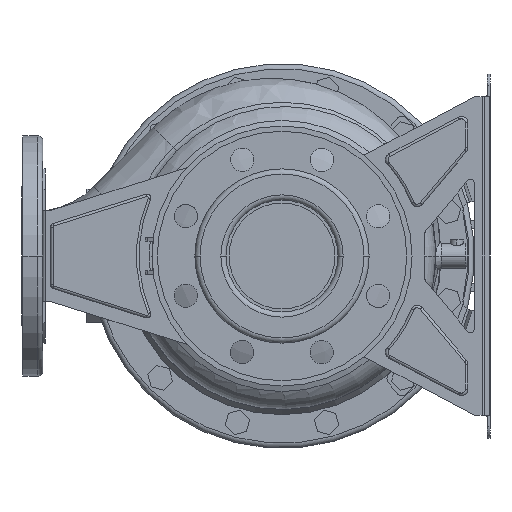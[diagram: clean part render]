
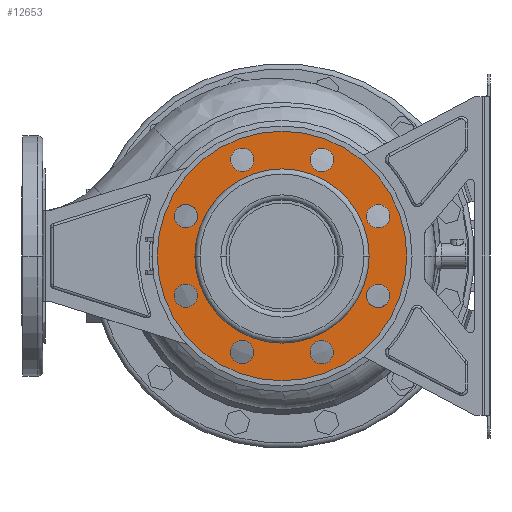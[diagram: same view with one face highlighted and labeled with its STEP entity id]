
A CAD part, left-side view. The second image highlights one B-rep face of the part: STEP entity #12653.
In plain terms, the highlighted planar face has unit normal (-1, 0, 0).
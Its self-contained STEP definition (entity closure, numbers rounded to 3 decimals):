
#11786=CARTESIAN_POINT('',(14.,0.,0.));
#11787=DIRECTION('',(-1.,0.,0.));
#11788=DIRECTION('',(0.,1.,0.));
#11789=AXIS2_PLACEMENT_3D('',#11786,#11787,#11788);
#11794=CARTESIAN_POINT('',(14.,0.,0.));
#11795=DIRECTION('',(1.,0.,0.));
#11796=DIRECTION('',(0.,1.,0.));
#11797=AXIS2_PLACEMENT_3D('',#11794,#11795,#11796);
#11802=CARTESIAN_POINT('',(14.,-73.91,30.615));
#11803=DIRECTION('',(1.,0.,0.));
#11804=DIRECTION('',(0.,1.,0.));
#11805=AXIS2_PLACEMENT_3D('',#11802,#11803,#11804);
#11810=CARTESIAN_POINT('',(14.,-73.91,30.615));
#11811=DIRECTION('',(1.,0.,0.));
#11812=DIRECTION('',(0.,-1.,0.));
#11813=AXIS2_PLACEMENT_3D('',#11810,#11811,#11812);
#11818=CARTESIAN_POINT('',(14.,-73.91,-30.615));
#11819=DIRECTION('',(1.,0.,0.));
#11820=DIRECTION('',(0.,0.707,0.707));
#11821=AXIS2_PLACEMENT_3D('',#11818,#11819,#11820);
#11826=CARTESIAN_POINT('',(14.,-73.91,-30.615));
#11827=DIRECTION('',(1.,0.,0.));
#11828=DIRECTION('',(0.,-0.707,-0.707));
#11829=AXIS2_PLACEMENT_3D('',#11826,#11827,#11828);
#11834=CARTESIAN_POINT('',(14.,-30.615,-73.91));
#11835=DIRECTION('',(1.,0.,0.));
#11836=DIRECTION('',(0.,0.,1.));
#11837=AXIS2_PLACEMENT_3D('',#11834,#11835,#11836);
#11842=CARTESIAN_POINT('',(14.,-30.615,-73.91));
#11843=DIRECTION('',(1.,0.,0.));
#11844=DIRECTION('',(0.,0.,-1.));
#11845=AXIS2_PLACEMENT_3D('',#11842,#11843,#11844);
#11850=CARTESIAN_POINT('',(14.,30.615,-73.91));
#11851=DIRECTION('',(1.,0.,0.));
#11852=DIRECTION('',(0.,-0.707,0.707));
#11853=AXIS2_PLACEMENT_3D('',#11850,#11851,#11852);
#11858=CARTESIAN_POINT('',(14.,30.615,-73.91));
#11859=DIRECTION('',(1.,0.,0.));
#11860=DIRECTION('',(0.,0.707,-0.707));
#11861=AXIS2_PLACEMENT_3D('',#11858,#11859,#11860);
#11866=CARTESIAN_POINT('',(14.,73.91,-30.615));
#11867=DIRECTION('',(1.,0.,0.));
#11868=DIRECTION('',(0.,-1.,0.));
#11869=AXIS2_PLACEMENT_3D('',#11866,#11867,#11868);
#11874=CARTESIAN_POINT('',(14.,73.91,-30.615));
#11875=DIRECTION('',(1.,0.,0.));
#11876=DIRECTION('',(0.,1.,0.));
#11877=AXIS2_PLACEMENT_3D('',#11874,#11875,#11876);
#11882=CARTESIAN_POINT('',(14.,73.91,30.615));
#11883=DIRECTION('',(1.,0.,0.));
#11884=DIRECTION('',(0.,-0.707,-0.707));
#11885=AXIS2_PLACEMENT_3D('',#11882,#11883,#11884);
#11890=CARTESIAN_POINT('',(14.,73.91,30.615));
#11891=DIRECTION('',(1.,0.,0.));
#11892=DIRECTION('',(0.,0.707,0.707));
#11893=AXIS2_PLACEMENT_3D('',#11890,#11891,#11892);
#11898=CARTESIAN_POINT('',(14.,30.615,73.91));
#11899=DIRECTION('',(1.,0.,0.));
#11900=DIRECTION('',(0.,0.,-1.));
#11901=AXIS2_PLACEMENT_3D('',#11898,#11899,#11900);
#11906=CARTESIAN_POINT('',(14.,30.615,73.91));
#11907=DIRECTION('',(1.,0.,0.));
#11908=DIRECTION('',(0.,0.,1.));
#11909=AXIS2_PLACEMENT_3D('',#11906,#11907,#11908);
#11914=CARTESIAN_POINT('',(14.,-30.615,73.91));
#11915=DIRECTION('',(1.,0.,0.));
#11916=DIRECTION('',(0.,0.707,-0.707));
#11917=AXIS2_PLACEMENT_3D('',#11914,#11915,#11916);
#11922=CARTESIAN_POINT('',(14.,-30.615,73.91));
#11923=DIRECTION('',(1.,0.,0.));
#11924=DIRECTION('',(0.,-0.707,0.707));
#11925=AXIS2_PLACEMENT_3D('',#11922,#11923,#11924);
#11930=CARTESIAN_POINT('',(14.,0.,0.));
#11931=DIRECTION('',(1.,0.,0.));
#11932=DIRECTION('',(0.,1.,0.));
#11933=AXIS2_PLACEMENT_3D('',#11930,#11931,#11932);
#11952=CARTESIAN_POINT('',(14.,0.,0.));
#11953=DIRECTION('',(-1.,0.,0.));
#11954=DIRECTION('',(0.,1.,0.));
#11955=AXIS2_PLACEMENT_3D('',#11952,#11953,#11954);
#12173=CARTESIAN_POINT('',(14.,96.,0.));
#12175=VERTEX_POINT('',#12173);
#12176=CARTESIAN_POINT('',(14.,67.,0.));
#12178=VERTEX_POINT('',#12176);
#12205=CARTESIAN_POINT('',(14.,-96.,0.));
#12207=VERTEX_POINT('',#12205);
#12208=CARTESIAN_POINT('',(14.,-67.,0.));
#12210=VERTEX_POINT('',#12208);
#12220=CARTESIAN_POINT('',(14.,-64.91,30.615));
#12221=CARTESIAN_POINT('',(14.,-82.91,30.615));
#12222=VERTEX_POINT('',#12220);
#12223=VERTEX_POINT('',#12221);
#12228=CARTESIAN_POINT('',(14.,-67.546,-24.251));
#12229=CARTESIAN_POINT('',(14.,-80.274,-36.979));
#12230=VERTEX_POINT('',#12228);
#12231=VERTEX_POINT('',#12229);
#12236=CARTESIAN_POINT('',(14.,-30.615,-64.91));
#12237=CARTESIAN_POINT('',(14.,-30.615,-82.91));
#12238=VERTEX_POINT('',#12236);
#12239=VERTEX_POINT('',#12237);
#12244=CARTESIAN_POINT('',(14.,24.251,-67.546));
#12245=CARTESIAN_POINT('',(14.,36.979,-80.274));
#12246=VERTEX_POINT('',#12244);
#12247=VERTEX_POINT('',#12245);
#12252=CARTESIAN_POINT('',(14.,64.91,-30.615));
#12253=CARTESIAN_POINT('',(14.,82.91,-30.615));
#12254=VERTEX_POINT('',#12252);
#12255=VERTEX_POINT('',#12253);
#12260=CARTESIAN_POINT('',(14.,67.546,24.251));
#12261=CARTESIAN_POINT('',(14.,80.274,36.979));
#12262=VERTEX_POINT('',#12260);
#12263=VERTEX_POINT('',#12261);
#12268=CARTESIAN_POINT('',(14.,30.615,64.91));
#12269=CARTESIAN_POINT('',(14.,30.615,82.91));
#12270=VERTEX_POINT('',#12268);
#12271=VERTEX_POINT('',#12269);
#12276=CARTESIAN_POINT('',(14.,-24.251,67.546));
#12277=CARTESIAN_POINT('',(14.,-36.979,80.274));
#12278=VERTEX_POINT('',#12276);
#12279=VERTEX_POINT('',#12277);
#12590=CARTESIAN_POINT('',(14.,0.,0.));
#12591=DIRECTION('',(1.,0.,0.));
#12592=DIRECTION('',(0.,-1.,0.));
#12593=AXIS2_PLACEMENT_3D('',#12590,#12591,#12592);
#12594=PLANE('',#12593);
#12595=ORIENTED_EDGE('',*,*,#12583,.F.);
#12596=ORIENTED_EDGE('',*,*,#12572,.T.);
#12597=EDGE_LOOP('',(#12595,#12596));
#12598=FACE_OUTER_BOUND('',#12597,.F.);
#12600=ORIENTED_EDGE('',*,*,#12599,.F.);
#12602=ORIENTED_EDGE('',*,*,#12601,.T.);
#12603=EDGE_LOOP('',(#12600,#12602));
#12604=FACE_BOUND('',#12603,.F.);
#12606=ORIENTED_EDGE('',*,*,#12605,.F.);
#12608=ORIENTED_EDGE('',*,*,#12607,.F.);
#12609=EDGE_LOOP('',(#12606,#12608));
#12610=FACE_BOUND('',#12609,.F.);
#12612=ORIENTED_EDGE('',*,*,#12611,.F.);
#12614=ORIENTED_EDGE('',*,*,#12613,.F.);
#12615=EDGE_LOOP('',(#12612,#12614));
#12616=FACE_BOUND('',#12615,.F.);
#12618=ORIENTED_EDGE('',*,*,#12617,.F.);
#12620=ORIENTED_EDGE('',*,*,#12619,.F.);
#12621=EDGE_LOOP('',(#12618,#12620));
#12622=FACE_BOUND('',#12621,.F.);
#12624=ORIENTED_EDGE('',*,*,#12623,.F.);
#12626=ORIENTED_EDGE('',*,*,#12625,.F.);
#12627=EDGE_LOOP('',(#12624,#12626));
#12628=FACE_BOUND('',#12627,.F.);
#12630=ORIENTED_EDGE('',*,*,#12629,.F.);
#12632=ORIENTED_EDGE('',*,*,#12631,.F.);
#12633=EDGE_LOOP('',(#12630,#12632));
#12634=FACE_BOUND('',#12633,.F.);
#12636=ORIENTED_EDGE('',*,*,#12635,.F.);
#12638=ORIENTED_EDGE('',*,*,#12637,.F.);
#12639=EDGE_LOOP('',(#12636,#12638));
#12640=FACE_BOUND('',#12639,.F.);
#12642=ORIENTED_EDGE('',*,*,#12641,.F.);
#12644=ORIENTED_EDGE('',*,*,#12643,.F.);
#12645=EDGE_LOOP('',(#12642,#12644));
#12646=FACE_BOUND('',#12645,.F.);
#12648=ORIENTED_EDGE('',*,*,#12647,.F.);
#12650=ORIENTED_EDGE('',*,*,#12649,.F.);
#12651=EDGE_LOOP('',(#12648,#12650));
#12652=FACE_BOUND('',#12651,.F.);
#11790=CIRCLE('',#11789,96.);
#11798=CIRCLE('',#11797,96.);
#11806=CIRCLE('',#11805,9.);
#11814=CIRCLE('',#11813,9.);
#11822=CIRCLE('',#11821,9.);
#11830=CIRCLE('',#11829,9.);
#11838=CIRCLE('',#11837,9.);
#11846=CIRCLE('',#11845,9.);
#11854=CIRCLE('',#11853,9.);
#11862=CIRCLE('',#11861,9.);
#11870=CIRCLE('',#11869,9.);
#11878=CIRCLE('',#11877,9.);
#11886=CIRCLE('',#11885,9.);
#11894=CIRCLE('',#11893,9.);
#11902=CIRCLE('',#11901,9.);
#11910=CIRCLE('',#11909,9.);
#11918=CIRCLE('',#11917,9.);
#11926=CIRCLE('',#11925,9.);
#11934=CIRCLE('',#11933,67.);
#11956=CIRCLE('',#11955,67.);
#12572=EDGE_CURVE('',#12175,#12207,#11798,.T.);
#12583=EDGE_CURVE('',#12175,#12207,#11790,.T.);
#12599=EDGE_CURVE('',#12178,#12210,#11934,.T.);
#12601=EDGE_CURVE('',#12178,#12210,#11956,.T.);
#12605=EDGE_CURVE('',#12222,#12223,#11806,.T.);
#12607=EDGE_CURVE('',#12223,#12222,#11814,.T.);
#12611=EDGE_CURVE('',#12230,#12231,#11822,.T.);
#12613=EDGE_CURVE('',#12231,#12230,#11830,.T.);
#12617=EDGE_CURVE('',#12238,#12239,#11838,.T.);
#12619=EDGE_CURVE('',#12239,#12238,#11846,.T.);
#12623=EDGE_CURVE('',#12246,#12247,#11854,.T.);
#12625=EDGE_CURVE('',#12247,#12246,#11862,.T.);
#12629=EDGE_CURVE('',#12254,#12255,#11870,.T.);
#12631=EDGE_CURVE('',#12255,#12254,#11878,.T.);
#12635=EDGE_CURVE('',#12262,#12263,#11886,.T.);
#12637=EDGE_CURVE('',#12263,#12262,#11894,.T.);
#12641=EDGE_CURVE('',#12270,#12271,#11902,.T.);
#12643=EDGE_CURVE('',#12271,#12270,#11910,.T.);
#12647=EDGE_CURVE('',#12278,#12279,#11918,.T.);
#12649=EDGE_CURVE('',#12279,#12278,#11926,.T.);
#12653=ADVANCED_FACE('',(#12598,#12604,#12610,#12616,#12622,#12628,#12634,
#12640,#12646,#12652),#12594,.F.);
